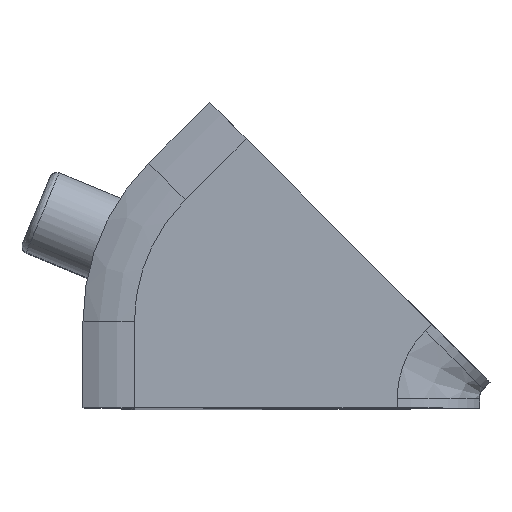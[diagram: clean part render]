
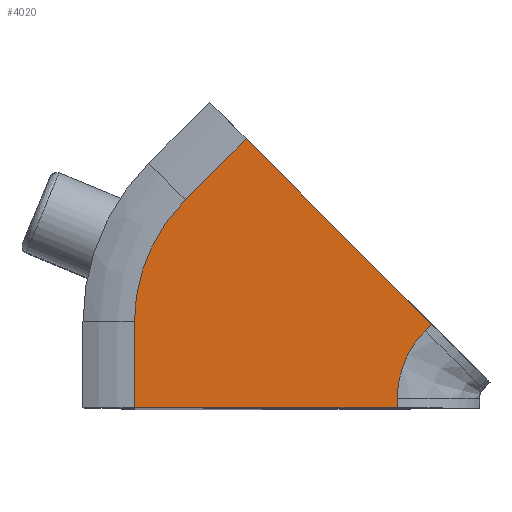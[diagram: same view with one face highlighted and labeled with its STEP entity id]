
A CAD part, top view. The second image highlights one B-rep face of the part: STEP entity #4020.
In plain terms, the highlighted planar face has unit normal (0, 0, 1).
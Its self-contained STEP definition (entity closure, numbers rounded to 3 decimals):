
#11 = EDGE_LOOP ( 'NONE', ( #3721, #2281, #1480, #3803, #3639, #811, #2930, #1878 ) ) ;
#46 = PLANE ( 'NONE',  #3731 ) ;
#52 = VECTOR ( 'NONE', #3904, 1000. ) ;
#67 = CARTESIAN_POINT ( 'NONE',  ( 7.609, 0., 0. ) ) ;
#111 = CARTESIAN_POINT ( 'NONE',  ( 0., 3.158, 0. ) ) ;
#183 = CARTESIAN_POINT ( 'NONE',  ( 7.609, 8.195, 0. ) ) ;
#193 = CARTESIAN_POINT ( 'NONE',  ( 7.682, 0.994, 0. ) ) ;
#254 = B_SPLINE_CURVE_WITH_KNOTS ( 'NONE', 3,
 ( #2974, #1042, #3923, #2585, #111, #1363 ),
 .UNSPECIFIED., .F., .F.,
 ( 4, 2, 4 ),
 ( 0., 0.5, 1. ),
 .UNSPECIFIED. ) ;
#270 = CARTESIAN_POINT ( 'NONE',  ( 7.609, 0.264, 0. ) ) ;
#409 = EDGE_CURVE ( 'NONE', #2418, #2696, #2725, .T. ) ;
#467 = VECTOR ( 'NONE', #1748, 1000. ) ;
#647 = CARTESIAN_POINT ( 'NONE',  ( 3.233, 7.805, 0. ) ) ;
#720 = LINE ( 'NONE', #3836, #52 ) ;
#811 = ORIENTED_EDGE ( 'NONE', *, *, #3878, .T. ) ;
#907 = B_SPLINE_CURVE_WITH_KNOTS ( 'NONE', 3,
 ( #2795, #3340, #193, #2115, #3382, #3359 ),
 .UNSPECIFIED., .F., .F.,
 ( 4, 2, 4 ),
 ( 0., 0.5, 1. ),
 .UNSPECIFIED. ) ;
#913 = CARTESIAN_POINT ( 'NONE',  ( 9.044, 8.195, 0. ) ) ;
#932 = VERTEX_POINT ( 'NONE', #2095 ) ;
#951 = DIRECTION ( 'NONE',  ( 0., 0., 1. ) ) ;
#1042 = CARTESIAN_POINT ( 'NONE',  ( 1., 5.572, 0. ) ) ;
#1072 = CARTESIAN_POINT ( 'NONE',  ( 3.233, 7.805, 0. ) ) ;
#1319 = LINE ( 'NONE', #647, #4028 ) ;
#1351 = LINE ( 'NONE', #2306, #1525 ) ;
#1363 = CARTESIAN_POINT ( 'NONE',  ( 0., 2.501, 0. ) ) ;
#1463 = VECTOR ( 'NONE', #3375, 1000. ) ;
#1480 = ORIENTED_EDGE ( 'NONE', *, *, #2257, .T. ) ;
#1525 = VECTOR ( 'NONE', #3557, 1000. ) ;
#1580 = CARTESIAN_POINT ( 'NONE',  ( 8.613, 2.425, 0. ) ) ;
#1748 = DIRECTION ( 'NONE',  ( -0.707, -0.707, 0. ) ) ;
#1878 = ORIENTED_EDGE ( 'NONE', *, *, #409, .F. ) ;
#1935 = DIRECTION ( 'NONE',  ( -1., 0., 0. ) ) ;
#1943 = VERTEX_POINT ( 'NONE', #270 ) ;
#2095 = CARTESIAN_POINT ( 'NONE',  ( 0., 0., 0. ) ) ;
#2115 = CARTESIAN_POINT ( 'NONE',  ( 7.961, 1.67, 0. ) ) ;
#2168 = CARTESIAN_POINT ( 'NONE',  ( 8.427, 2.238, 0. ) ) ;
#2257 = EDGE_CURVE ( 'NONE', #2878, #3245, #254, .T. ) ;
#2258 = EDGE_CURVE ( 'NONE', #3349, #932, #720, .T. ) ;
#2281 = ORIENTED_EDGE ( 'NONE', *, *, #2813, .T. ) ;
#2298 = VECTOR ( 'NONE', #2720, 1000. ) ;
#2306 = CARTESIAN_POINT ( 'NONE',  ( 0., 8.195, 0. ) ) ;
#2412 = LINE ( 'NONE', #183, #2298 ) ;
#2418 = VERTEX_POINT ( 'NONE', #1580 ) ;
#2490 = FACE_OUTER_BOUND ( 'NONE', #11, .T. ) ;
#2585 = CARTESIAN_POINT ( 'NONE',  ( 0.13, 3.809, 0. ) ) ;
#2690 = EDGE_CURVE ( 'NONE', #3245, #932, #1351, .T. ) ;
#2696 = VERTEX_POINT ( 'NONE', #3246 ) ;
#2706 = CARTESIAN_POINT ( 'NONE',  ( 3.233, 7.805, 0. ) ) ;
#2720 = DIRECTION ( 'NONE',  ( 0., 1., 0. ) ) ;
#2725 = LINE ( 'NONE', #2168, #1463 ) ;
#2795 = CARTESIAN_POINT ( 'NONE',  ( 7.609, 0.264, 0. ) ) ;
#2813 = EDGE_CURVE ( 'NONE', #3500, #2878, #3611, .T. ) ;
#2854 = DIRECTION ( 'NONE',  ( 0.707, -0.707, 0. ) ) ;
#2878 = VERTEX_POINT ( 'NONE', #3649 ) ;
#2930 = ORIENTED_EDGE ( 'NONE', *, *, #3152, .T. ) ;
#2974 = CARTESIAN_POINT ( 'NONE',  ( 1.464, 6.037, 0. ) ) ;
#3152 = EDGE_CURVE ( 'NONE', #1943, #2696, #907, .T. ) ;
#3214 = CARTESIAN_POINT ( 'NONE',  ( 0., 2.501, 0. ) ) ;
#3245 = VERTEX_POINT ( 'NONE', #3214 ) ;
#3246 = CARTESIAN_POINT ( 'NONE',  ( 8.427, 2.238, 0. ) ) ;
#3310 = EDGE_CURVE ( 'NONE', #3500, #2418, #1319, .T. ) ;
#3340 = CARTESIAN_POINT ( 'NONE',  ( 7.609, 0.631, 0. ) ) ;
#3349 = VERTEX_POINT ( 'NONE', #67 ) ;
#3359 = CARTESIAN_POINT ( 'NONE',  ( 8.427, 2.238, 0. ) ) ;
#3375 = DIRECTION ( 'NONE',  ( -0.707, -0.707, 0. ) ) ;
#3382 = CARTESIAN_POINT ( 'NONE',  ( 8.167, 1.978, 0. ) ) ;
#3500 = VERTEX_POINT ( 'NONE', #2706 ) ;
#3557 = DIRECTION ( 'NONE',  ( 0., -1., 0. ) ) ;
#3611 = LINE ( 'NONE', #1072, #467 ) ;
#3639 = ORIENTED_EDGE ( 'NONE', *, *, #2258, .F. ) ;
#3649 = CARTESIAN_POINT ( 'NONE',  ( 1.464, 6.037, 0. ) ) ;
#3721 = ORIENTED_EDGE ( 'NONE', *, *, #3310, .F. ) ;
#3731 = AXIS2_PLACEMENT_3D ( 'NONE', #913, #951, #1935 ) ;
#3803 = ORIENTED_EDGE ( 'NONE', *, *, #2690, .T. ) ;
#3836 = CARTESIAN_POINT ( 'NONE',  ( -2.075, 0., 0. ) ) ;
#3878 = EDGE_CURVE ( 'NONE', #3349, #1943, #2412, .T. ) ;
#3904 = DIRECTION ( 'NONE',  ( -1., 0., 0. ) ) ;
#3923 = CARTESIAN_POINT ( 'NONE',  ( 0.632, 5.02, 0. ) ) ;
#4020 = ADVANCED_FACE ( 'NONE', ( #2490 ), #46, .T. ) ;
#4028 = VECTOR ( 'NONE', #2854, 1000. ) ;
